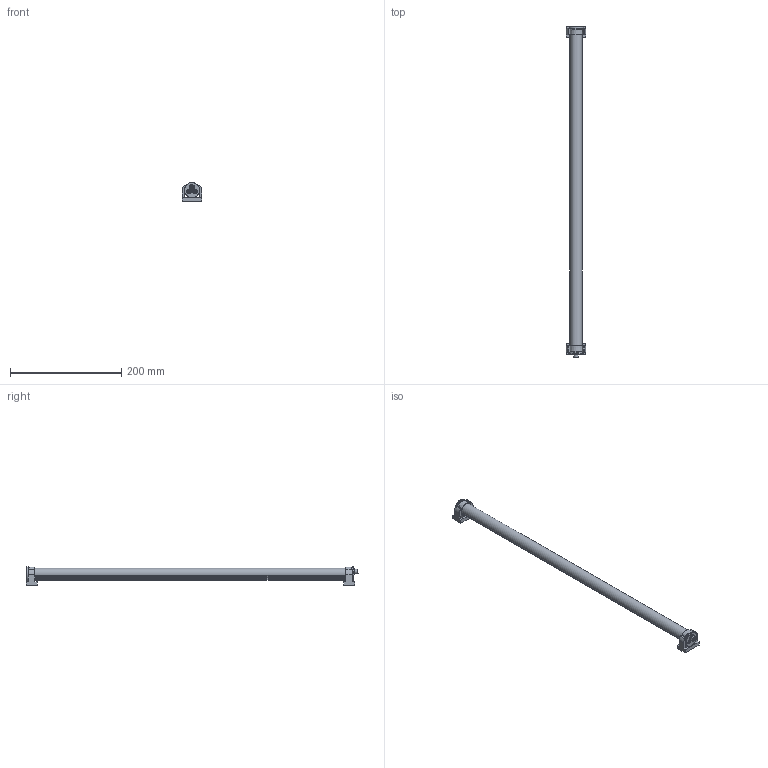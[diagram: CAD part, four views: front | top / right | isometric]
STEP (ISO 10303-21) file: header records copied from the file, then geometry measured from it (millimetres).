
FILE_DESCRIPTION(/* description */ (''),/* implementation_level */ '2;1');
FILE_NAME(/* name */ 'G:\Daten\Leuchten\06100 - LED ELN - ELN-RGBW\03 - CAD\ELN560\led-aufbauleuchte-eln-560.stp',/* time_stamp */ '2023-05-03T09:39:38+02:00',/* author */ ('gzahn'),/* organization */ (''),/* preprocessor_version */ 'ST-DEVELOPER v19',/* originating_system */ 'Autodesk Inventor 2023',/* authorisation */ '');
FILE_SCHEMA (('AUTOMOTIVE_DESIGN { 1 0 10303 214 3 1 1 }'));
Length unit declared in the file: millimetre
Products named in the file (1): led-aufbauleuchte-eln-560
Bounding box: 35.04 x 596.02 x 34.05 mm (x, y, z)
Volume: 227234.2 mm3; surface area: 58549 mm2
Topology: 1 solids, 1 shells, 512 faces, 1445 edges, 922 vertices
Faces by surface type: plane 182, cylinder 168, cone 103, bspline 57, torus 2
Full cylindrical faces by diameter (mm): 1 x4, 1.3 x4, 4.4 x2, 5.8 x1, 7.4 x2, 7.5 x4, 8 x1
Entity records: 21604 total; most frequent: CARTESIAN_POINT 8126, ORIENTED_EDGE 2890, DIRECTION 2534, EDGE_CURVE 1445, AXIS2_PLACEMENT_3D 1015, VERTEX_POINT 922, EDGE_LOOP 547, CIRCLE 535
